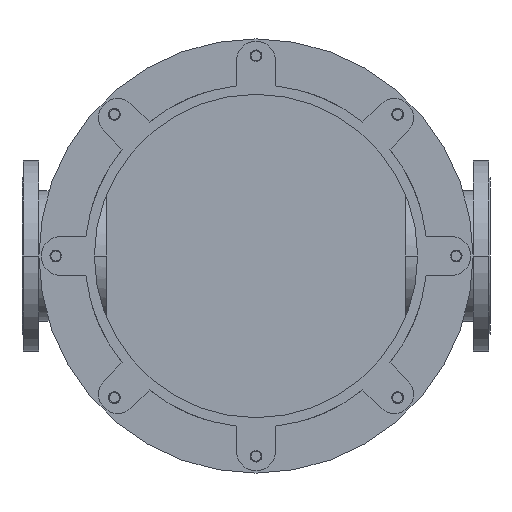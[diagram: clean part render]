
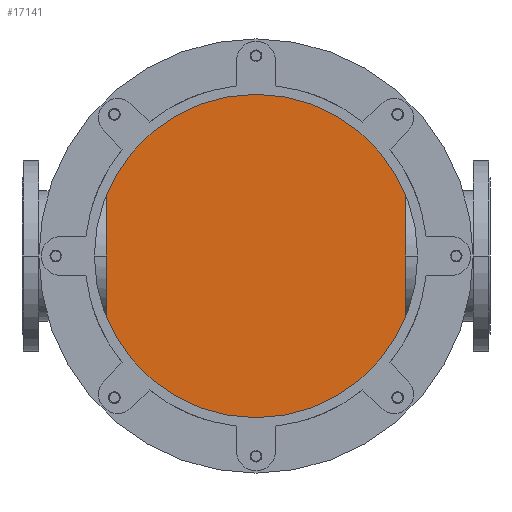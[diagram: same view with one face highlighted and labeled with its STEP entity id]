
A CAD part, front view. The second image highlights one B-rep face of the part: STEP entity #17141.
In plain terms, the highlighted planar face has unit normal (0, -1, 0).
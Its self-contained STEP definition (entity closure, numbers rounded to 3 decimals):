
#5065=CARTESIAN_POINT('',(0.,951.,0.));
#5066=DIRECTION('',(0.,-1.,0.));
#5067=DIRECTION('',(0.,0.,1.));
#5068=AXIS2_PLACEMENT_3D('',#5065,#5066,#5067);
#5196=CARTESIAN_POINT('',(0.,951.,0.));
#5197=DIRECTION('',(0.,-1.,0.));
#5198=DIRECTION('',(0.,0.,-1.));
#5199=AXIS2_PLACEMENT_3D('',#5196,#5197,#5198);
#9238=CARTESIAN_POINT('',(0.,951.,350.));
#9239=CARTESIAN_POINT('',(0.,951.,-350.));
#9240=VERTEX_POINT('',#9238);
#9241=VERTEX_POINT('',#9239);
#17131=CARTESIAN_POINT('',(0.,951.,0.));
#17132=DIRECTION('',(0.,1.,0.));
#17133=DIRECTION('',(0.,0.,-1.));
#17134=AXIS2_PLACEMENT_3D('',#17131,#17132,#17133);
#17135=PLANE('',#17134);
#17136=ORIENTED_EDGE('',*,*,#17115,.F.);
#17138=ORIENTED_EDGE('',*,*,#17137,.F.);
#17139=EDGE_LOOP('',(#17136,#17138));
#17140=FACE_OUTER_BOUND('',#17139,.F.);
#17141=ADVANCED_FACE('',(#17140),#17135,.F.);
#5069=CIRCLE('',#5068,350.);
#5200=CIRCLE('',#5199,350.);
#17115=EDGE_CURVE('',#9240,#9241,#5069,.T.);
#17137=EDGE_CURVE('',#9241,#9240,#5200,.T.);
